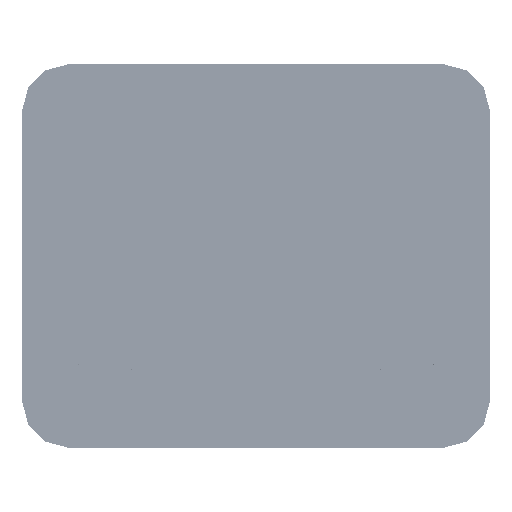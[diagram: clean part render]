
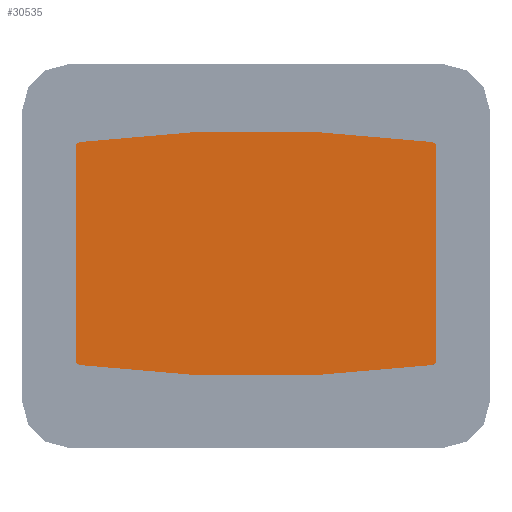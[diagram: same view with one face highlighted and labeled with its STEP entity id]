
A CAD part, top view. The second image highlights one B-rep face of the part: STEP entity #30535.
In plain terms, the highlighted planar face has unit normal (0, 0, 1).
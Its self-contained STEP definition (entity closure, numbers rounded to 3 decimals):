
#14282=PLANE('',#260391);
#30535=ADVANCED_FACE('',(#45844),#14282,.F.);
#45844=FACE_OUTER_BOUND('',#61275,.T.);
#61275=EDGE_LOOP('',(#157746,#157747,#157748,#157749,#157750,#157751,#157752,
#157753));
#73173=CIRCLE('',#260372,5.);
#73175=CIRCLE('',#260375,1460.);
#73177=CIRCLE('',#260378,5.);
#73179=CIRCLE('',#260382,5.);
#73181=CIRCLE('',#260385,1460.);
#73183=CIRCLE('',#260388,5.);
#87688=LINE('',#475264,#102605);
#87694=LINE('',#475288,#102611);
#102605=VECTOR('',#314176,1.);
#102611=VECTOR('',#314202,1.);
#157746=ORIENTED_EDGE('',*,*,#225285,.F.);
#157747=ORIENTED_EDGE('',*,*,#225282,.F.);
#157748=ORIENTED_EDGE('',*,*,#225279,.F.);
#157749=ORIENTED_EDGE('',*,*,#225276,.F.);
#157750=ORIENTED_EDGE('',*,*,#225273,.F.);
#157751=ORIENTED_EDGE('',*,*,#225270,.F.);
#157752=ORIENTED_EDGE('',*,*,#225267,.F.);
#157753=ORIENTED_EDGE('',*,*,#225264,.F.);
#193499=VERTEX_POINT('',#475263);
#193500=VERTEX_POINT('',#475265);
#193502=VERTEX_POINT('',#475271);
#193504=VERTEX_POINT('',#475277);
#193506=VERTEX_POINT('',#475283);
#193508=VERTEX_POINT('',#475289);
#193510=VERTEX_POINT('',#475295);
#193512=VERTEX_POINT('',#475301);
#225264=EDGE_CURVE('',#193499,#193500,#87688,.T.);
#225267=EDGE_CURVE('',#193500,#193502,#73173,.T.);
#225270=EDGE_CURVE('',#193502,#193504,#73175,.T.);
#225273=EDGE_CURVE('',#193504,#193506,#73177,.T.);
#225276=EDGE_CURVE('',#193506,#193508,#87694,.T.);
#225279=EDGE_CURVE('',#193508,#193510,#73179,.T.);
#225282=EDGE_CURVE('',#193510,#193512,#73181,.T.);
#225285=EDGE_CURVE('',#193512,#193499,#73183,.T.);
#260372=AXIS2_PLACEMENT_3D('',#475270,#314181,#314182);
#260375=AXIS2_PLACEMENT_3D('',#475276,#314188,#314189);
#260378=AXIS2_PLACEMENT_3D('',#475282,#314195,#314196);
#260382=AXIS2_PLACEMENT_3D('',#475294,#314207,#314208);
#260385=AXIS2_PLACEMENT_3D('',#475300,#314214,#314215);
#260388=AXIS2_PLACEMENT_3D('',#475306,#314221,#314222);
#260391=AXIS2_PLACEMENT_3D('',#475309,#314227,#314228);
#314176=DIRECTION('',(0.,1.,0.));
#314181=DIRECTION('',(0.,0.,-1.));
#314182=DIRECTION('',(-0.129,0.992,0.));
#314188=DIRECTION('',(0.,0.,-1.));
#314189=DIRECTION('',(-0.132,0.991,0.));
#314195=DIRECTION('',(0.,0.,-1.));
#314196=DIRECTION('',(0.129,0.992,0.));
#314202=DIRECTION('',(0.,-1.,0.));
#314207=DIRECTION('',(0.,0.,-1.));
#314208=DIRECTION('',(1.,0.,0.));
#314214=DIRECTION('',(0.,0.,-1.));
#314215=DIRECTION('',(0.132,-0.991,0.));
#314221=DIRECTION('',(0.,0.,-1.));
#314222=DIRECTION('',(-0.129,-0.992,0.));
#314227=DIRECTION('',(0.,0.,-1.));
#314228=DIRECTION('',(1.,0.,0.));
#475263=CARTESIAN_POINT('',(-97.5,538.832,954.6));
#475264=CARTESIAN_POINT('',(-97.5,538.832,954.6));
#475265=CARTESIAN_POINT('',(-97.5,767.168,954.6));
#475270=CARTESIAN_POINT('',(-92.5,767.168,954.6));
#475271=CARTESIAN_POINT('',(-93.144,772.127,954.6));
#475276=CARTESIAN_POINT('',(95.,-675.7,954.6));
#475277=CARTESIAN_POINT('',(283.144,772.127,954.6));
#475282=CARTESIAN_POINT('',(282.5,767.168,954.6));
#475283=CARTESIAN_POINT('',(287.5,767.168,954.6));
#475288=CARTESIAN_POINT('',(287.5,767.168,954.6));
#475289=CARTESIAN_POINT('',(287.5,538.832,954.6));
#475294=CARTESIAN_POINT('',(282.5,538.832,954.6));
#475295=CARTESIAN_POINT('',(283.144,533.873,954.6));
#475300=CARTESIAN_POINT('',(95.,1981.7,954.6));
#475301=CARTESIAN_POINT('',(-93.144,533.873,954.6));
#475306=CARTESIAN_POINT('',(-92.5,538.832,954.6));
#475309=CARTESIAN_POINT('',(326.,495.44,954.6));
